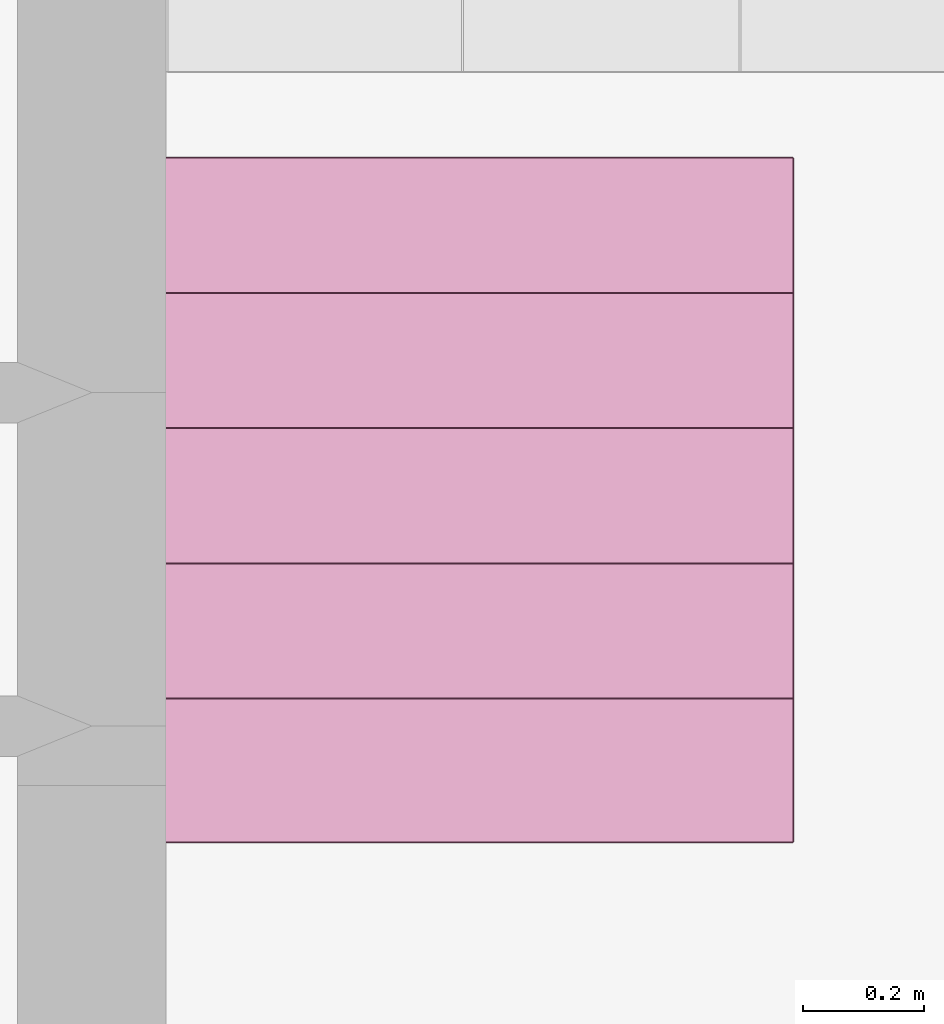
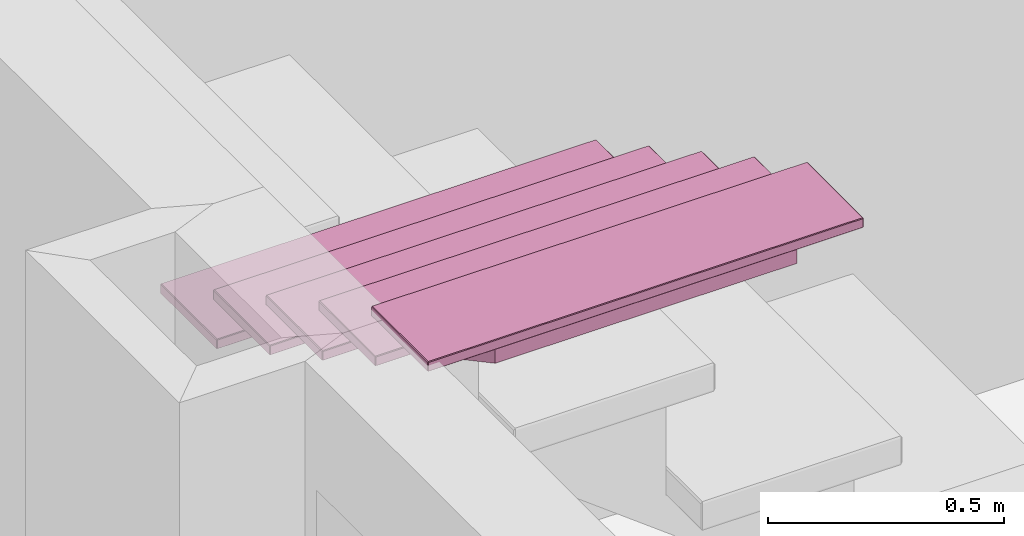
# One storey, part 6 of 8: 1 furniture element.
"""IFC4 building model written with IfcOpenShell, lengths in metres."""

import ifcopenshell
import ifcopenshell.guid

model = None  # the IFC model being written
_history = None  # IfcOwnerHistory: only IFC2X3 demands one
_inside = {}  # id of a spatial element -> (the spatial element, [elements in it])
_under = {}  # id of a project, library or spatial element -> (it, [spatial elements below it])
_declared = {}  # id of a project -> (the project, [libraries it declares])
_typed = {}  # id of a type object -> (the type object, [elements of that type])
_made_of = {}  # id of a material, layer set ... -> (it, [elements and type objects made of it])


def new_model(schema):
    """Start an empty IFC model of exactly this schema.

    Asked for "IFC4X3", IfcOpenShell would pick the latest addendum, in which some entities
    have other attributes; the version numbers below select the first issue.
    IFC2X3 requires an IfcOwnerHistory on every rooted entity: one is made here for all.
    """
    global model, _history
    if schema == "IFC4X3":
        model = ifcopenshell.file(schema_version=(4, 3, 0, 0))
    else:
        model = ifcopenshell.file(schema=schema)
    _inside.clear()
    _under.clear()
    _declared.clear()
    _typed.clear()
    _made_of.clear()
    _history = None
    if model.schema == "IFC2X3":
        org = make("IfcOrganization", Name="unknown")
        user = make(
            "IfcPersonAndOrganization",
            ThePerson=make("IfcPerson", FamilyName="unknown"),
            TheOrganization=org,
        )
        app = make(
            "IfcApplication",
            ApplicationDeveloper=org,
            Version="unknown",
            ApplicationFullName="unknown",
            ApplicationIdentifier="unknown",
        )
        _history = make(
            "IfcOwnerHistory",
            OwningUser=user,
            OwningApplication=app,
            ChangeAction="ADDED",
            CreationDate=0,
        )
    return model


def make(cls, **values):
    """One entity of the class cls with the attributes given. An attribute that is None is left unset."""
    return model.create_entity(
        cls, **{name: value for name, value in values.items() if value is not None}
    )


def rooted(cls, **values):
    """An entity with a GlobalId (a new one), such as an element, a storey or a relation."""
    return make(cls, GlobalId=ifcopenshell.guid.new(), OwnerHistory=_history, **values)


def si_unit(unit_type, name, prefix=None):
    """IfcSIUnit, for example si_unit("LENGTHUNIT", "METRE", prefix="MILLI")."""
    return make("IfcSIUnit", UnitType=unit_type, Prefix=prefix, Name=name)


def assignment(units):
    """IfcUnitAssignment: the units of a project."""
    return None if units is None else make("IfcUnitAssignment", Units=units)


def point(xyz):
    """IfcCartesianPoint."""
    return None if xyz is None else make("IfcCartesianPoint", Coordinates=xyz)


def direction(xyz):
    """IfcDirection."""
    return None if xyz is None else make("IfcDirection", DirectionRatios=xyz)


def frame(location, z_axis=None, x_axis=None):
    """IfcAxis2Placement3D, a coordinate frame: its origin and axes. An axis left out is left unset."""
    return make(
        "IfcAxis2Placement3D",
        Location=point(location),
        Axis=direction(z_axis),
        RefDirection=direction(x_axis),
    )


def origin_with_axes():
    """The frame at (0, 0, 0) with the z axis (0, 0, 1) and the x axis (1, 0, 0) written out."""
    return frame((0.0, 0.0, 0.0), z_axis=(0.0, 0.0, 1.0), x_axis=(1.0, 0.0, 0.0))


def place(relative_to, where):
    """IfcLocalPlacement: puts the frame where relative to a parent placement (None: the world)."""
    return make(
        "IfcLocalPlacement", PlacementRelTo=relative_to, RelativePlacement=where
    )


def context(
    kind, dimensions, precision=None, world=None, true_north=None, identifier=None
):
    """IfcGeometricRepresentationContext, for example the 3D "Model" context."""
    return make(
        "IfcGeometricRepresentationContext",
        ContextIdentifier=identifier,
        ContextType=kind,
        CoordinateSpaceDimension=dimensions,
        Precision=precision,
        WorldCoordinateSystem=world,
        TrueNorth=true_north,
    )


def project(units=None, contexts=None):
    """IfcProject with its units and contexts."""
    return rooted(
        "IfcProject",
        Name="project",
        RepresentationContexts=contexts,
        UnitsInContext=assignment(units),
    )


def spatial(cls, under=None, at=None, **own):
    """A site, building, storey or space (cls), placed at a placement, below another one or the project."""
    s = rooted(cls, ObjectPlacement=at, **own)
    if under is not None:
        _under.setdefault(under.id(), (under, []))[1].append(s)
    return s


def point_list(points):
    """IfcCartesianPointList2D or 3D."""
    cls = (
        "IfcCartesianPointList2D" if len(points[0]) == 2 else "IfcCartesianPointList3D"
    )
    return make(cls, CoordList=points)


def polygons(points, faces, closed=None, point_numbers=None):
    """IfcPolygonalFaceSet: a face is its outer loop, then its inner loops; points numbered from 1."""
    made = []
    for loops in faces:
        if len(loops) == 1:
            made.append(make("IfcIndexedPolygonalFace", CoordIndex=loops[0]))
        else:
            made.append(
                make(
                    "IfcIndexedPolygonalFaceWithVoids",
                    CoordIndex=loops[0],
                    InnerCoordIndices=loops[1:],
                )
            )
    return make(
        "IfcPolygonalFaceSet",
        Coordinates=point_list(points),
        Closed=closed,
        Faces=made,
        PnIndex=point_numbers,
    )


def shape(context_of_items, identifier, shape_type, items):
    """IfcShapeRepresentation: the items that make up one representation, for example the "Body"."""
    return make(
        "IfcShapeRepresentation",
        ContextOfItems=context_of_items,
        RepresentationIdentifier=identifier,
        RepresentationType=shape_type,
        Items=items,
    )


def made_of(thing, what):
    """Note that an element or type object is made of a material, layer set ...; save() writes the relation."""
    if what is not None:
        _made_of.setdefault(what.id(), (what, []))[1].append(thing)
    return thing


def type_object(cls, material=None, **own):
    """A type object (cls), such as IfcWallType, which elements share."""
    return made_of(rooted(cls, **own), material)


def element(
    cls,
    number,
    at=None,
    inside=None,
    cuts=None,
    type_object=None,
    material=None,
    context=None,
    identifier="Body",
    shape_type=None,
    held_by="IfcProductDefinitionShape",
    body=None,
    shapes=None,
    **own,
):
    """One element of the class cls, such as IfcWall. Its Tag is "e" and its number.

    at: its placement. inside: the storey or other place that contains it. cuts: it is an
    opening in that element (IfcRelVoidsElement). A single representation is given by context,
    identifier, shape_type and body (its items); several are given by shapes. held_by: the class
    of the entity that holds the representations. save() writes the other relations.
    """
    e = rooted(cls, Tag="e%d" % number, ObjectPlacement=at, **own)
    if body is not None:
        shapes = [shape(context, identifier, shape_type, body)]
    if shapes is not None:
        e.Representation = make(held_by, Representations=shapes)
    if inside is not None:
        _inside.setdefault(inside.id(), (inside, []))[1].append(e)
    if cuts is not None:
        rooted(
            "IfcRelVoidsElement", RelatingBuildingElement=cuts, RelatedOpeningElement=e
        )
    if type_object is not None:
        _typed.setdefault(type_object.id(), (type_object, []))[1].append(e)
    return made_of(e, material)


def aggregate(whole, parts):
    """IfcRelAggregates: a whole, such as a stair, and the parts it consists of."""
    return rooted("IfcRelAggregates", RelatingObject=whole, RelatedObjects=parts)


def save(model, path):
    """Write the relations noted so far, then the file.

    IfcRelAggregates (storeys below a building ...), IfcRelContainedInSpatialStructure (elements
    in a storey), IfcRelDefinesByType, IfcRelAssociatesMaterial and IfcRelDeclares: one each for
    every whole, place, type object, material and project.
    """
    for whole, parts in _under.values():
        aggregate(whole, parts)
    for where, things in _inside.values():
        rooted(
            "IfcRelContainedInSpatialStructure",
            RelatedElements=things,
            RelatingStructure=where,
        )
    for kind, things in _typed.values():
        rooted("IfcRelDefinesByType", RelatedObjects=things, RelatingType=kind)
    for what, things in _made_of.values():
        rooted("IfcRelAssociatesMaterial", RelatedObjects=things, RelatingMaterial=what)
    for by, libraries in _declared.values():
        rooted("IfcRelDeclares", RelatingContext=by, RelatedDefinitions=libraries)
    model.write(path)


model = new_model("IFC4")

# Units and contexts
model_context = context("Model", 3, precision=1e-05, world=origin_with_axes(), true_north=direction((-0.077, 0.997, 0.0)))
ifc_project = project(units=[si_unit("AREAUNIT", "SQUARE_METRE"), si_unit("LENGTHUNIT", "METRE")], contexts=[model_context])

# Site, building, storey, space
site_placement = place(None, origin_with_axes())
site = spatial("IfcSite", under=ifc_project, at=site_placement, Name="Site", CompositionType="ELEMENT")
building_placement = place(site_placement, origin_with_axes())
building = spatial("IfcBuilding", under=site, at=building_placement, Name="Building", CompositionType="ELEMENT")
storey_placement = place(building_placement, frame((0.0, 0.0, 0.0500000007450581), z_axis=(0.0, 0.0, 1.0), x_axis=(1.0, 0.0, 0.0)))
storey = spatial("IfcBuildingStorey", under=building, at=storey_placement, Name="Story 0", CompositionType="ELEMENT", Elevation=0.0500000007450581)
space_placement = place(storey_placement, frame((1.57275010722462, 0.239487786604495, 0.0), z_axis=(0.0, 0.0, 1.0), x_axis=(1.0, 0.0, 0.0)))
space = spatial("IfcSpace", under=storey, at=space_placement, Name="002", CompositionType="ELEMENT")

# Furniture
furniture_type = type_object("IfcFurnitureType", Name="4b038b04-ed2c-44cd-ad29-fa8fd4b9a46c", AssemblyPlace="NOTDEFINED", PredefinedType="USERDEFINED")
furniture_placement = place(space_placement, frame((0.504883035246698, -0.17973069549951, 2.0833696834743), z_axis=(0.0, 0.0, 1.00000000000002), x_axis=(0.0, 1.0, 0.0)))
element("IfcFurniture", 1, at=furniture_placement, inside=space, type_object=furniture_type, Name="STAIRS", ObjectType="STAIRS", PredefinedType="USERDEFINED", context=model_context, shape_type="Tessellation", body=[
    polygons([(0.5679, 0.5323, -0.1714), (0.5679, -0.5323, -0.1714), (0.5679, 0.5323, -0.1937), (0.5679, -0.5323, -0.1937), (0.5679, 0.5323, -0.1937), (0.5679, -0.5323, -0.1714), (0.5663, -0.5342, -0.1714), (0.3296, -0.5342, -0.1714), (0.5663, -0.5342, -0.1937), (0.3296, -0.5342, -0.1937), (0.5663, -0.5342, -0.1937), (0.3296, -0.5342, -0.1714), (0.328, -0.5323, -0.1714), (0.328, 0.5323, -0.1714), (0.328, -0.5323, -0.1937), (0.328, 0.5323, -0.1937), (0.328, -0.5323, -0.1937), (0.328, 0.5323, -0.1714), (0.3296, 0.5342, -0.1714), (0.5663, 0.5342, -0.1714), (0.3296, 0.5342, -0.1937), (0.5663, 0.5342, -0.1937), (0.3296, 0.5342, -0.1937), (0.5663, 0.5342, -0.1714), (0.5663, -0.5323, -0.1954), (0.3296, -0.5323, -0.1954), (0.5663, 0.5323, -0.1954), (0.3296, 0.5323, -0.1954), (0.5663, 0.5323, -0.1954), (0.3296, -0.5323, -0.1954), (0.5663, -0.5323, -0.1697), (0.5663, 0.5323, -0.1697), (0.3296, -0.5323, -0.1697), (0.3296, 0.5323, -0.1697), (0.3296, -0.5323, -0.1697), (0.5663, 0.5323, -0.1697), (0.5663, 0.5342, -0.1937), (0.5679, 0.5323, -0.1937), (0.5663, 0.5323, -0.1954), (0.5663, -0.5342, -0.1937), (0.5663, -0.5323, -0.1954), (0.5679, -0.5323, -0.1937), (0.328, -0.5323, -0.1937), (0.3296, -0.5323, -0.1954), (0.3296, -0.5342, -0.1937), (0.328, 0.5323, -0.1937), (0.3296, 0.5342, -0.1937), (0.3296, 0.5323, -0.1954), (0.5663, 0.5323, -0.1697), (0.5679, 0.5323, -0.1714), (0.5663, 0.5342, -0.1714), (0.5663, -0.5323, -0.1697), (0.5663, -0.5342, -0.1714), (0.5679, -0.5323, -0.1714), (0.3296, -0.5323, -0.1697), (0.328, -0.5323, -0.1714), (0.3296, -0.5342, -0.1714), (0.3296, 0.5323, -0.1697), (0.3296, 0.5342, -0.1714), (0.328, 0.5323, -0.1714), (0.5663, 0.5323, -0.1954), (0.5679, 0.5323, -0.1937), (0.5663, -0.5323, -0.1954), (0.5679, -0.5323, -0.1937), (0.5663, -0.5323, -0.1954), (0.5679, 0.5323, -0.1937), (0.5663, -0.5342, -0.1937), (0.5679, -0.5323, -0.1937), (0.5663, -0.5342, -0.1714), (0.5679, -0.5323, -0.1714), (0.5663, -0.5342, -0.1714), (0.5679, -0.5323, -0.1937), (0.5663, -0.5323, -0.1697), (0.5679, -0.5323, -0.1714), (0.5663, 0.5323, -0.1697), (0.5679, 0.5323, -0.1714), (0.5663, 0.5323, -0.1697), (0.5679, -0.5323, -0.1714), (0.5663, 0.5342, -0.1714), (0.5679, 0.5323, -0.1714), (0.5663, 0.5342, -0.1937), (0.5679, 0.5323, -0.1937), (0.5663, 0.5342, -0.1937), (0.5679, 0.5323, -0.1714), (0.5663, -0.5323, -0.1954), (0.5663, -0.5342, -0.1937), (0.3296, -0.5323, -0.1954), (0.3296, -0.5342, -0.1937), (0.3296, -0.5323, -0.1954), (0.5663, -0.5342, -0.1937), (0.328, -0.5323, -0.1937), (0.3296, -0.5342, -0.1937), (0.328, -0.5323, -0.1714), (0.3296, -0.5342, -0.1714), (0.328, -0.5323, -0.1714), (0.3296, -0.5342, -0.1937), (0.3296, -0.5323, -0.1697), (0.3296, -0.5342, -0.1714), (0.5663, -0.5323, -0.1697), (0.5663, -0.5342, -0.1714), (0.5663, -0.5323, -0.1697), (0.3296, -0.5342, -0.1714), (0.3296, -0.5323, -0.1954), (0.328, -0.5323, -0.1937), (0.3296, 0.5323, -0.1954), (0.328, 0.5323, -0.1937), (0.3296, 0.5323, -0.1954), (0.328, -0.5323, -0.1937), (0.3296, 0.5342, -0.1937), (0.328, 0.5323, -0.1937), (0.3296, 0.5342, -0.1714), (0.328, 0.5323, -0.1714), (0.3296, 0.5342, -0.1714), (0.328, 0.5323, -0.1937), (0.3296, 0.5323, -0.1697), (0.328, 0.5323, -0.1714), (0.3296, -0.5323, -0.1697), (0.328, -0.5323, -0.1714), (0.3296, -0.5323, -0.1697), (0.328, 0.5323, -0.1714), (0.3296, 0.5323, -0.1954), (0.3296, 0.5342, -0.1937), (0.5663, 0.5323, -0.1954), (0.5663, 0.5342, -0.1937), (0.5663, 0.5323, -0.1954), (0.3296, 0.5342, -0.1937), (0.5663, 0.5323, -0.1697), (0.5663, 0.5342, -0.1714), (0.3296, 0.5323, -0.1697), (0.3296, 0.5342, -0.1714), (0.3296, 0.5323, -0.1697), (0.5663, 0.5342, -0.1714), (0.3433, 0.5323, -0.0509), (0.3433, -0.5323, -0.0509), (0.3433, 0.5323, -0.0732), (0.3433, -0.5323, -0.0732), (0.3433, 0.5323, -0.0732), (0.3433, -0.5323, -0.0509), (0.3417, -0.5342, -0.0509), (0.105, -0.5342, -0.0509), (0.3417, -0.5342, -0.0732), (0.105, -0.5342, -0.0732), (0.3417, -0.5342, -0.0732), (0.105, -0.5342, -0.0509), (0.1034, -0.5323, -0.0509), (0.1034, 0.5323, -0.0509), (0.1034, -0.5323, -0.0732), (0.1034, 0.5323, -0.0732), (0.1034, -0.5323, -0.0732), (0.1034, 0.5323, -0.0509), (0.105, 0.5342, -0.0509), (0.3417, 0.5342, -0.0509), (0.105, 0.5342, -0.0732), (0.3417, 0.5342, -0.0732), (0.105, 0.5342, -0.0732), (0.3417, 0.5342, -0.0509), (0.3417, -0.5323, -0.0749), (0.105, -0.5323, -0.0749), (0.3417, 0.5323, -0.0749), (0.105, 0.5323, -0.0749), (0.3417, 0.5323, -0.0749), (0.105, -0.5323, -0.0749), (0.3417, -0.5323, -0.0491), (0.3417, 0.5323, -0.0491), (0.105, -0.5323, -0.0491), (0.105, 0.5323, -0.0491), (0.105, -0.5323, -0.0491), (0.3417, 0.5323, -0.0491), (0.3417, 0.5342, -0.0732), (0.3433, 0.5323, -0.0732), (0.3417, 0.5323, -0.0749), (0.3417, -0.5342, -0.0732), (0.3417, -0.5323, -0.0749), (0.3433, -0.5323, -0.0732), (0.1034, -0.5323, -0.0732), (0.105, -0.5323, -0.0749), (0.105, -0.5342, -0.0732), (0.1034, 0.5323, -0.0732), (0.105, 0.5342, -0.0732), (0.105, 0.5323, -0.0749), (0.3417, 0.5323, -0.0491), (0.3433, 0.5323, -0.0509), (0.3417, 0.5342, -0.0509), (0.3417, -0.5323, -0.0491), (0.3417, -0.5342, -0.0509), (0.3433, -0.5323, -0.0509), (0.105, -0.5323, -0.0491), (0.1034, -0.5323, -0.0509), (0.105, -0.5342, -0.0509), (0.105, 0.5323, -0.0491), (0.105, 0.5342, -0.0509), (0.1034, 0.5323, -0.0509), (0.3417, 0.5323, -0.0749), (0.3433, 0.5323, -0.0732), (0.3417, -0.5323, -0.0749), (0.3433, -0.5323, -0.0732), (0.3417, -0.5323, -0.0749), (0.3433, 0.5323, -0.0732), (0.3417, -0.5342, -0.0732), (0.3433, -0.5323, -0.0732), (0.3417, -0.5342, -0.0509), (0.3433, -0.5323, -0.0509), (0.3417, -0.5342, -0.0509), (0.3433, -0.5323, -0.0732), (0.3417, -0.5323, -0.0491), (0.3433, -0.5323, -0.0509), (0.3417, 0.5323, -0.0491), (0.3433, 0.5323, -0.0509), (0.3417, 0.5323, -0.0491), (0.3433, -0.5323, -0.0509), (0.3417, 0.5342, -0.0509), (0.3433, 0.5323, -0.0509), (0.3417, 0.5342, -0.0732), (0.3433, 0.5323, -0.0732), (0.3417, 0.5342, -0.0732), (0.3433, 0.5323, -0.0509), (0.3417, -0.5323, -0.0749), (0.3417, -0.5342, -0.0732), (0.105, -0.5323, -0.0749), (0.105, -0.5342, -0.0732), (0.105, -0.5323, -0.0749), (0.3417, -0.5342, -0.0732), (0.1034, -0.5323, -0.0732), (0.105, -0.5342, -0.0732), (0.1034, -0.5323, -0.0509), (0.105, -0.5342, -0.0509), (0.1034, -0.5323, -0.0509), (0.105, -0.5342, -0.0732), (0.105, -0.5323, -0.0491), (0.105, -0.5342, -0.0509), (0.3417, -0.5323, -0.0491), (0.3417, -0.5342, -0.0509), (0.3417, -0.5323, -0.0491), (0.105, -0.5342, -0.0509), (0.105, -0.5323, -0.0749), (0.1034, -0.5323, -0.0732), (0.105, 0.5323, -0.0749), (0.1034, 0.5323, -0.0732), (0.105, 0.5323, -0.0749), (0.1034, -0.5323, -0.0732), (0.105, 0.5342, -0.0732), (0.1034, 0.5323, -0.0732), (0.105, 0.5342, -0.0509), (0.1034, 0.5323, -0.0509), (0.105, 0.5342, -0.0509), (0.1034, 0.5323, -0.0732), (0.105, 0.5323, -0.0491), (0.1034, 0.5323, -0.0509), (0.105, -0.5323, -0.0491), (0.1034, -0.5323, -0.0509), (0.105, -0.5323, -0.0491), (0.1034, 0.5323, -0.0509), (0.105, 0.5323, -0.0749), (0.105, 0.5342, -0.0732), (0.3417, 0.5323, -0.0749), (0.3417, 0.5342, -0.0732), (0.3417, 0.5323, -0.0749), (0.105, 0.5342, -0.0732), (0.3417, 0.5323, -0.0491), (0.3417, 0.5342, -0.0509), (0.105, 0.5323, -0.0491), (0.105, 0.5342, -0.0509), (0.105, 0.5323, -0.0491), (0.3417, 0.5342, -0.0509), (0.1199, 0.5323, 0.0705), (0.1199, -0.5323, 0.0705), (0.1199, 0.5323, 0.0482), (0.1199, -0.5323, 0.0482), (0.1199, 0.5323, 0.0482), (0.1199, -0.5323, 0.0705), (0.1183, -0.5342, 0.0705), (-0.1184, -0.5342, 0.0705), (0.1183, -0.5342, 0.0482), (-0.1184, -0.5342, 0.0482), (0.1183, -0.5342, 0.0482), (-0.1184, -0.5342, 0.0705), (-0.12, -0.5323, 0.0705), (-0.12, 0.5323, 0.0705), (-0.12, -0.5323, 0.0482), (-0.12, 0.5323, 0.0482), (-0.12, -0.5323, 0.0482), (-0.12, 0.5323, 0.0705), (-0.1184, 0.5342, 0.0705), (0.1183, 0.5342, 0.0705), (-0.1184, 0.5342, 0.0482), (0.1183, 0.5342, 0.0482), (-0.1184, 0.5342, 0.0482), (0.1183, 0.5342, 0.0705), (0.1183, -0.5323, 0.0464), (-0.1184, -0.5323, 0.0464), (0.1183, 0.5323, 0.0464), (-0.1184, 0.5323, 0.0464), (0.1183, 0.5323, 0.0464), (-0.1184, -0.5323, 0.0464), (0.1183, -0.5323, 0.0722), (0.1183, 0.5323, 0.0722), (-0.1184, -0.5323, 0.0722), (-0.1184, 0.5323, 0.0722), (-0.1184, -0.5323, 0.0722), (0.1183, 0.5323, 0.0722), (0.1183, 0.5342, 0.0482), (0.1199, 0.5323, 0.0482), (0.1183, 0.5323, 0.0464), (0.1183, -0.5342, 0.0482), (0.1183, -0.5323, 0.0464), (0.1199, -0.5323, 0.0482), (-0.12, -0.5323, 0.0482), (-0.1184, -0.5323, 0.0464), (-0.1184, -0.5342, 0.0482), (-0.12, 0.5323, 0.0482), (-0.1184, 0.5342, 0.0482), (-0.1184, 0.5323, 0.0464), (0.1183, 0.5323, 0.0722), (0.1199, 0.5323, 0.0705), (0.1183, 0.5342, 0.0705), (0.1183, -0.5323, 0.0722), (0.1183, -0.5342, 0.0705), (0.1199, -0.5323, 0.0705), (-0.1184, -0.5323, 0.0722), (-0.12, -0.5323, 0.0705), (-0.1184, -0.5342, 0.0705), (-0.1184, 0.5323, 0.0722), (-0.1184, 0.5342, 0.0705), (-0.12, 0.5323, 0.0705), (0.1183, 0.5323, 0.0464), (0.1199, 0.5323, 0.0482), (0.1183, -0.5323, 0.0464), (0.1199, -0.5323, 0.0482), (0.1183, -0.5323, 0.0464), (0.1199, 0.5323, 0.0482), (0.1183, -0.5342, 0.0482), (0.1199, -0.5323, 0.0482), (0.1183, -0.5342, 0.0705), (0.1199, -0.5323, 0.0705), (0.1183, -0.5342, 0.0705), (0.1199, -0.5323, 0.0482), (0.1183, -0.5323, 0.0722), (0.1199, -0.5323, 0.0705), (0.1183, 0.5323, 0.0722), (0.1199, 0.5323, 0.0705), (0.1183, 0.5323, 0.0722), (0.1199, -0.5323, 0.0705), (0.1183, 0.5342, 0.0705), (0.1199, 0.5323, 0.0705), (0.1183, 0.5342, 0.0482), (0.1199, 0.5323, 0.0482), (0.1183, 0.5342, 0.0482), (0.1199, 0.5323, 0.0705), (0.1183, -0.5323, 0.0464), (0.1183, -0.5342, 0.0482), (-0.1184, -0.5323, 0.0464), (-0.1184, -0.5342, 0.0482), (-0.1184, -0.5323, 0.0464), (0.1183, -0.5342, 0.0482), (-0.12, -0.5323, 0.0482), (-0.1184, -0.5342, 0.0482), (-0.12, -0.5323, 0.0705), (-0.1184, -0.5342, 0.0705), (-0.12, -0.5323, 0.0705), (-0.1184, -0.5342, 0.0482), (-0.1184, -0.5323, 0.0722), (-0.1184, -0.5342, 0.0705), (0.1183, -0.5323, 0.0722), (0.1183, -0.5342, 0.0705), (0.1183, -0.5323, 0.0722), (-0.1184, -0.5342, 0.0705), (-0.1184, -0.5323, 0.0464), (-0.12, -0.5323, 0.0482), (-0.1184, 0.5323, 0.0464), (-0.12, 0.5323, 0.0482), (-0.1184, 0.5323, 0.0464), (-0.12, -0.5323, 0.0482), (-0.1184, 0.5342, 0.0482), (-0.12, 0.5323, 0.0482), (-0.1184, 0.5342, 0.0705), (-0.12, 0.5323, 0.0705), (-0.1184, 0.5342, 0.0705), (-0.12, 0.5323, 0.0482), (-0.1184, 0.5323, 0.0722), (-0.12, 0.5323, 0.0705), (-0.1184, -0.5323, 0.0722), (-0.12, -0.5323, 0.0705), (-0.1184, -0.5323, 0.0722), (-0.12, 0.5323, 0.0705), (-0.1184, 0.5323, 0.0464), (-0.1184, 0.5342, 0.0482), (0.1183, 0.5323, 0.0464), (0.1183, 0.5342, 0.0482), (0.1183, 0.5323, 0.0464), (-0.1184, 0.5342, 0.0482), (0.1183, 0.5323, 0.0722), (0.1183, 0.5342, 0.0705), (-0.1184, 0.5323, 0.0722), (-0.1184, 0.5342, 0.0705), (-0.1184, 0.5323, 0.0722), (0.1183, 0.5342, 0.0705), (-0.1044, 0.5323, 0.1922), (-0.1044, -0.5323, 0.1922), (-0.1044, 0.5323, 0.1699), (-0.1044, -0.5323, 0.1699), (-0.1044, 0.5323, 0.1699), (-0.1044, -0.5323, 0.1922), (-0.106, -0.5342, 0.1922), (-0.3428, -0.5342, 0.1922), (-0.106, -0.5342, 0.1699), (-0.3428, -0.5342, 0.1699), (-0.106, -0.5342, 0.1699), (-0.3428, -0.5342, 0.1922), (-0.3444, -0.5323, 0.1922), (-0.3444, 0.5323, 0.1922), (-0.3444, -0.5323, 0.1699), (-0.3444, 0.5323, 0.1699), (-0.3444, -0.5323, 0.1699), (-0.3444, 0.5323, 0.1922), (-0.3428, 0.5342, 0.1922), (-0.106, 0.5342, 0.1922), (-0.3428, 0.5342, 0.1699), (-0.106, 0.5342, 0.1699), (-0.3428, 0.5342, 0.1699), (-0.106, 0.5342, 0.1922), (-0.106, -0.5323, 0.1682), (-0.3428, -0.5323, 0.1682), (-0.106, 0.5323, 0.1682), (-0.3428, 0.5323, 0.1682), (-0.106, 0.5323, 0.1682), (-0.3428, -0.5323, 0.1682), (-0.106, -0.5323, 0.1939), (-0.106, 0.5323, 0.1939), (-0.3428, -0.5323, 0.1939), (-0.3428, 0.5323, 0.1939), (-0.3428, -0.5323, 0.1939), (-0.106, 0.5323, 0.1939), (-0.106, 0.5342, 0.1699), (-0.1044, 0.5323, 0.1699), (-0.106, 0.5323, 0.1682), (-0.106, -0.5342, 0.1699), (-0.106, -0.5323, 0.1682), (-0.1044, -0.5323, 0.1699), (-0.3444, -0.5323, 0.1699), (-0.3428, -0.5323, 0.1682), (-0.3428, -0.5342, 0.1699), (-0.3444, 0.5323, 0.1699), (-0.3428, 0.5342, 0.1699), (-0.3428, 0.5323, 0.1682), (-0.106, 0.5323, 0.1939), (-0.1044, 0.5323, 0.1922), (-0.106, 0.5342, 0.1922), (-0.106, -0.5323, 0.1939), (-0.106, -0.5342, 0.1922), (-0.1044, -0.5323, 0.1922), (-0.3428, -0.5323, 0.1939), (-0.3444, -0.5323, 0.1922), (-0.3428, -0.5342, 0.1922), (-0.3428, 0.5323, 0.1939), (-0.3428, 0.5342, 0.1922), (-0.3444, 0.5323, 0.1922), (-0.106, 0.5323, 0.1682), (-0.1044, 0.5323, 0.1699), (-0.106, -0.5323, 0.1682), (-0.1044, -0.5323, 0.1699), (-0.106, -0.5323, 0.1682), (-0.1044, 0.5323, 0.1699), (-0.106, -0.5342, 0.1699), (-0.1044, -0.5323, 0.1699), (-0.106, -0.5342, 0.1922), (-0.1044, -0.5323, 0.1922), (-0.106, -0.5342, 0.1922), (-0.1044, -0.5323, 0.1699), (-0.106, -0.5323, 0.1939), (-0.1044, -0.5323, 0.1922), (-0.106, 0.5323, 0.1939), (-0.1044, 0.5323, 0.1922), (-0.106, 0.5323, 0.1939), (-0.1044, -0.5323, 0.1922), (-0.106, 0.5342, 0.1922), (-0.1044, 0.5323, 0.1922), (-0.106, 0.5342, 0.1699), (-0.1044, 0.5323, 0.1699), (-0.106, 0.5342, 0.1699), (-0.1044, 0.5323, 0.1922), (-0.106, -0.5323, 0.1682), (-0.106, -0.5342, 0.1699), (-0.3428, -0.5323, 0.1682), (-0.3428, -0.5342, 0.1699), (-0.3428, -0.5323, 0.1682), (-0.106, -0.5342, 0.1699), (-0.3444, -0.5323, 0.1699), (-0.3428, -0.5342, 0.1699), (-0.3444, -0.5323, 0.1922), (-0.3428, -0.5342, 0.1922), (-0.3444, -0.5323, 0.1922), (-0.3428, -0.5342, 0.1699), (-0.3428, -0.5323, 0.1939), (-0.3428, -0.5342, 0.1922), (-0.106, -0.5323, 0.1939), (-0.106, -0.5342, 0.1922), (-0.106, -0.5323, 0.1939), (-0.3428, -0.5342, 0.1922), (-0.3428, -0.5323, 0.1682), (-0.3444, -0.5323, 0.1699), (-0.3428, 0.5323, 0.1682), (-0.3444, 0.5323, 0.1699), (-0.3428, 0.5323, 0.1682), (-0.3444, -0.5323, 0.1699), (-0.3428, 0.5342, 0.1699), (-0.3444, 0.5323, 0.1699), (-0.3428, 0.5342, 0.1922), (-0.3444, 0.5323, 0.1922), (-0.3428, 0.5342, 0.1922), (-0.3444, 0.5323, 0.1699), (-0.3428, 0.5323, 0.1939), (-0.3444, 0.5323, 0.1922), (-0.3428, -0.5323, 0.1939), (-0.3444, -0.5323, 0.1922), (-0.3428, -0.5323, 0.1939), (-0.3444, 0.5323, 0.1922), (-0.3428, 0.5323, 0.1682), (-0.3428, 0.5342, 0.1699), (-0.106, 0.5323, 0.1682), (-0.106, 0.5342, 0.1699), (-0.106, 0.5323, 0.1682), (-0.3428, 0.5342, 0.1699), (-0.106, 0.5323, 0.1939), (-0.106, 0.5342, 0.1922), (-0.3428, 0.5323, 0.1939), (-0.3428, 0.5342, 0.1922), (-0.3428, 0.5323, 0.1939), (-0.106, 0.5342, 0.1922), (-0.328, 0.5323, 0.3136), (-0.328, -0.5323, 0.3136), (-0.328, 0.5323, 0.2912), (-0.328, -0.5323, 0.2912), (-0.328, 0.5323, 0.2912), (-0.328, -0.5323, 0.3136), (-0.3296, -0.5342, 0.3136), (-0.5663, -0.5342, 0.3136), (-0.3296, -0.5342, 0.2912), (-0.5663, -0.5342, 0.2912), (-0.3296, -0.5342, 0.2912), (-0.5663, -0.5342, 0.3136), (-0.5679, -0.5323, 0.3136), (-0.5679, 0.5323, 0.3136), (-0.5679, -0.5323, 0.2912), (-0.5679, 0.5323, 0.2912), (-0.5679, -0.5323, 0.2912), (-0.5679, 0.5323, 0.3136), (-0.5663, 0.5342, 0.3136), (-0.3296, 0.5342, 0.3136), (-0.5663, 0.5342, 0.2912), (-0.3296, 0.5342, 0.2912), (-0.5663, 0.5342, 0.2912), (-0.3296, 0.5342, 0.3136), (-0.3296, -0.5323, 0.2895), (-0.5663, -0.5323, 0.2895), (-0.3296, 0.5323, 0.2895), (-0.5663, 0.5323, 0.2895), (-0.3296, 0.5323, 0.2895), (-0.5663, -0.5323, 0.2895), (-0.3296, -0.5323, 0.3153), (-0.3296, 0.5323, 0.3153), (-0.5663, -0.5323, 0.3153), (-0.5663, 0.5323, 0.3153), (-0.5663, -0.5323, 0.3153), (-0.3296, 0.5323, 0.3153), (-0.3296, 0.5342, 0.2912), (-0.328, 0.5323, 0.2912), (-0.3296, 0.5323, 0.2895), (-0.3296, -0.5342, 0.2912), (-0.3296, -0.5323, 0.2895), (-0.328, -0.5323, 0.2912), (-0.5679, -0.5323, 0.2912), (-0.5663, -0.5323, 0.2895), (-0.5663, -0.5342, 0.2912), (-0.5679, 0.5323, 0.2912), (-0.5663, 0.5342, 0.2912), (-0.5663, 0.5323, 0.2895), (-0.3296, 0.5323, 0.3153), (-0.328, 0.5323, 0.3136), (-0.3296, 0.5342, 0.3136), (-0.3296, -0.5323, 0.3153), (-0.3296, -0.5342, 0.3136), (-0.328, -0.5323, 0.3136), (-0.5663, -0.5323, 0.3153), (-0.5679, -0.5323, 0.3136), (-0.5663, -0.5342, 0.3136), (-0.5663, 0.5323, 0.3153), (-0.5663, 0.5342, 0.3136), (-0.5679, 0.5323, 0.3136), (-0.3296, 0.5323, 0.2895), (-0.328, 0.5323, 0.2912), (-0.3296, -0.5323, 0.2895), (-0.328, -0.5323, 0.2912), (-0.3296, -0.5323, 0.2895), (-0.328, 0.5323, 0.2912), (-0.3296, -0.5342, 0.2912), (-0.328, -0.5323, 0.2912), (-0.3296, -0.5342, 0.3136), (-0.328, -0.5323, 0.3136), (-0.3296, -0.5342, 0.3136), (-0.328, -0.5323, 0.2912), (-0.3296, -0.5323, 0.3153), (-0.328, -0.5323, 0.3136), (-0.3296, 0.5323, 0.3153), (-0.328, 0.5323, 0.3136), (-0.3296, 0.5323, 0.3153), (-0.328, -0.5323, 0.3136), (-0.3296, 0.5342, 0.3136), (-0.328, 0.5323, 0.3136), (-0.3296, 0.5342, 0.2912), (-0.328, 0.5323, 0.2912), (-0.3296, 0.5342, 0.2912), (-0.328, 0.5323, 0.3136), (-0.3296, -0.5323, 0.2895), (-0.3296, -0.5342, 0.2912), (-0.5663, -0.5323, 0.2895), (-0.5663, -0.5342, 0.2912), (-0.5663, -0.5323, 0.2895), (-0.3296, -0.5342, 0.2912), (-0.5679, -0.5323, 0.2912), (-0.5663, -0.5342, 0.2912), (-0.5679, -0.5323, 0.3136), (-0.5663, -0.5342, 0.3136), (-0.5679, -0.5323, 0.3136), (-0.5663, -0.5342, 0.2912), (-0.5663, -0.5323, 0.3153), (-0.5663, -0.5342, 0.3136), (-0.3296, -0.5323, 0.3153), (-0.3296, -0.5342, 0.3136), (-0.3296, -0.5323, 0.3153), (-0.5663, -0.5342, 0.3136), (-0.5663, -0.5323, 0.2895), (-0.5679, -0.5323, 0.2912), (-0.5663, 0.5323, 0.2895), (-0.5679, 0.5323, 0.2912), (-0.5663, 0.5323, 0.2895), (-0.5679, -0.5323, 0.2912), (-0.5663, 0.5342, 0.2912), (-0.5679, 0.5323, 0.2912), (-0.5663, 0.5342, 0.3136), (-0.5679, 0.5323, 0.3136), (-0.5663, 0.5342, 0.3136), (-0.5679, 0.5323, 0.2912), (-0.5663, 0.5323, 0.3153), (-0.5679, 0.5323, 0.3136), (-0.5663, -0.5323, 0.3153), (-0.5679, -0.5323, 0.3136), (-0.5663, -0.5323, 0.3153), (-0.5679, 0.5323, 0.3136), (-0.5663, 0.5323, 0.2895), (-0.5663, 0.5342, 0.2912), (-0.3296, 0.5323, 0.2895), (-0.3296, 0.5342, 0.2912), (-0.3296, 0.5323, 0.2895), (-0.5663, 0.5342, 0.2912), (-0.3296, 0.5323, 0.3153), (-0.3296, 0.5342, 0.3136), (-0.5663, 0.5323, 0.3153), (-0.5663, 0.5342, 0.3136), (-0.5663, 0.5323, 0.3153), (-0.3296, 0.5342, 0.3136), (0.5513, 0.3185, -0.1953), (0.5513, 0.3185, -0.3153), (0.5513, 0.3647, -0.1953), (0.5513, 0.3647, -0.3153), (0.5513, 0.3647, -0.1953), (0.5513, 0.3185, -0.3153), (0.3274, 0.3185, -0.1953), (0.5513, 0.3185, -0.1953), (0.3274, 0.3647, -0.1953), (0.5513, 0.3647, -0.1953), (0.3274, 0.3647, -0.1953), (0.5513, 0.3185, -0.1953), (0.3274, 0.3185, -0.0743), (0.3274, 0.3185, -0.1953), (0.3274, 0.3647, -0.0743), (0.3274, 0.3647, -0.1953), (0.3274, 0.3647, -0.0743), (0.3274, 0.3185, -0.1953), (0.1035, 0.3185, -0.0743), (0.3274, 0.3185, -0.0743), (0.1035, 0.3647, -0.0743), (0.3274, 0.3647, -0.0743), (0.1035, 0.3647, -0.0743), (0.3274, 0.3185, -0.0743), (0.1035, 0.3185, 0.0468), (0.1035, 0.3185, -0.0743), (0.1035, 0.3647, 0.0468), (0.1035, 0.3647, -0.0743), (0.1035, 0.3647, 0.0468), (0.1035, 0.3185, -0.0743), (-0.1205, 0.3185, 0.0468), (0.1035, 0.3185, 0.0468), (-0.1205, 0.3647, 0.0468), (0.1035, 0.3647, 0.0468), (-0.1205, 0.3647, 0.0468), (0.1035, 0.3185, 0.0468), (-0.1205, 0.3185, 0.1678), (-0.1205, 0.3185, 0.0468), (-0.1205, 0.3647, 0.1678), (-0.1205, 0.3647, 0.0468), (-0.1205, 0.3647, 0.1678), (-0.1205, 0.3185, 0.0468), (-0.3444, 0.3185, 0.1678), (-0.1205, 0.3185, 0.1678), (-0.3444, 0.3647, 0.1678), (-0.1205, 0.3647, 0.1678), (-0.3444, 0.3647, 0.1678), (-0.1205, 0.3185, 0.1678), (-0.3444, 0.3185, 0.2888), (-0.3444, 0.3185, 0.1678), (-0.3444, 0.3647, 0.2888), (-0.3444, 0.3647, 0.1678), (-0.3444, 0.3647, 0.2888), (-0.3444, 0.3185, 0.1678), (-0.5603, 0.3185, 0.2888), (-0.3444, 0.3185, 0.2888), (-0.5603, 0.3647, 0.2888), (-0.3444, 0.3647, 0.2888), (-0.5603, 0.3647, 0.2888), (-0.3444, 0.3185, 0.2888), (0.5513, -0.3749, -0.1953), (0.5513, -0.3749, -0.3153), (0.5513, -0.3287, -0.1953), (0.5513, -0.3287, -0.3153), (0.5513, -0.3287, -0.1953), (0.5513, -0.3749, -0.3153), (0.3274, -0.3749, -0.1953), (0.5513, -0.3749, -0.1953), (0.3274, -0.3287, -0.1953), (0.5513, -0.3287, -0.1953), (0.3274, -0.3287, -0.1953), (0.5513, -0.3749, -0.1953), (0.3274, -0.3749, -0.0743), (0.3274, -0.3749, -0.1953), (0.3274, -0.3287, -0.0743), (0.3274, -0.3287, -0.1953), (0.3274, -0.3287, -0.0743), (0.3274, -0.3749, -0.1953), (0.1035, -0.3749, -0.0743), (0.3274, -0.3749, -0.0743), (0.1035, -0.3287, -0.0743), (0.3274, -0.3287, -0.0743), (0.1035, -0.3287, -0.0743), (0.3274, -0.3749, -0.0743), (0.1035, -0.3749, 0.0468), (0.1035, -0.3749, -0.0743), (0.1035, -0.3287, 0.0468), (0.1035, -0.3287, -0.0743), (0.1035, -0.3287, 0.0468), (0.1035, -0.3749, -0.0743), (-0.1205, -0.3749, 0.0468), (0.1035, -0.3749, 0.0468), (-0.1205, -0.3287, 0.0468), (0.1035, -0.3287, 0.0468), (-0.1205, -0.3287, 0.0468), (0.1035, -0.3749, 0.0468), (-0.1205, -0.3749, 0.1678), (-0.1205, -0.3749, 0.0468), (-0.1205, -0.3287, 0.1678), (-0.1205, -0.3287, 0.0468), (-0.1205, -0.3287, 0.1678), (-0.1205, -0.3749, 0.0468), (-0.3444, -0.3749, 0.1678), (-0.1205, -0.3749, 0.1678), (-0.3444, -0.3287, 0.1678), (-0.1205, -0.3287, 0.1678), (-0.3444, -0.3287, 0.1678), (-0.1205, -0.3749, 0.1678), (-0.3444, -0.3749, 0.2888), (-0.3444, -0.3749, 0.1678), (-0.3444, -0.3287, 0.2888), (-0.3444, -0.3287, 0.1678), (-0.3444, -0.3287, 0.2888), (-0.3444, -0.3749, 0.1678), (-0.5603, -0.3749, 0.2888), (-0.3444, -0.3749, 0.2888), (-0.5603, -0.3287, 0.2888), (-0.3444, -0.3287, 0.2888), (-0.5603, -0.3287, 0.2888), (-0.3444, -0.3749, 0.2888), (0.4911, 0.3647, -0.3153), (0.4911, 0.3185, -0.3153), (-0.5603, 0.3647, 0.2483), (-0.5603, 0.3185, 0.2483), (-0.5603, 0.3647, 0.2483), (0.4911, 0.3185, -0.3153), (0.4911, -0.3287, -0.3153), (0.4911, -0.3749, -0.3153), (-0.5603, -0.3287, 0.2483), (-0.5603, -0.3749, 0.2483), (-0.5603, -0.3287, 0.2483), (0.4911, -0.3749, -0.3153), (0.4911, 0.3647, -0.3153), (0.5513, 0.3647, -0.3153), (0.4911, 0.3185, -0.3153), (0.5513, 0.3185, -0.3153), (0.4911, 0.3185, -0.3153), (0.5513, 0.3647, -0.3153), (-0.5603, 0.3647, 0.2483), (-0.5603, 0.3185, 0.2483), (-0.5603, 0.3647, 0.2888), (-0.5603, 0.3185, 0.2888), (-0.5603, 0.3647, 0.2888), (-0.5603, 0.3185, 0.2483), (0.4911, -0.3749, -0.3153), (0.4911, -0.3287, -0.3153), (0.5513, -0.3749, -0.3153), (0.5513, -0.3287, -0.3153), (0.5513, -0.3749, -0.3153), (0.4911, -0.3287, -0.3153), (-0.5603, -0.3287, 0.2483), (-0.5603, -0.3749, 0.2483), (-0.5603, -0.3287, 0.2888), (-0.5603, -0.3749, 0.2888), (-0.5603, -0.3287, 0.2888), (-0.5603, -0.3749, 0.2483), (-0.3444, 0.3185, 0.2888), (-0.5603, 0.3185, 0.2888), (-0.3444, -0.3287, 0.2888), (-0.5603, -0.3287, 0.2888), (-0.3444, -0.3287, 0.2888), (-0.5603, 0.3185, 0.2888), (-0.3444, 0.3185, 0.1678), (-0.3444, 0.3185, 0.2888), (-0.3444, -0.3287, 0.1678), (-0.3444, -0.3287, 0.2888), (-0.3444, -0.3287, 0.1678), (-0.3444, 0.3185, 0.2888), (-0.1205, 0.3185, 0.1678), (-0.3444, 0.3185, 0.1678), (-0.1205, -0.3287, 0.1678), (-0.3444, -0.3287, 0.1678), (-0.1205, -0.3287, 0.1678), (-0.3444, 0.3185, 0.1678), (-0.1205, 0.3185, 0.0468), (-0.1205, 0.3185, 0.1678), (-0.1205, -0.3287, 0.0468), (-0.1205, -0.3287, 0.1678), (-0.1205, -0.3287, 0.0468), (-0.1205, 0.3185, 0.1678), (0.1035, 0.3185, 0.0468), (-0.1205, 0.3185, 0.0468), (0.1035, -0.3287, 0.0468), (-0.1205, -0.3287, 0.0468), (0.1035, -0.3287, 0.0468), (-0.1205, 0.3185, 0.0468), (0.1035, 0.3185, -0.0743), (0.1035, 0.3185, 0.0468), (0.1035, -0.3287, -0.0743), (0.1035, -0.3287, 0.0468), (0.1035, -0.3287, -0.0743), (0.1035, 0.3185, 0.0468), (0.3274, 0.3185, -0.0743), (0.1035, 0.3185, -0.0743), (0.3274, -0.3287, -0.0743), (0.1035, -0.3287, -0.0743), (0.3274, -0.3287, -0.0743), (0.1035, 0.3185, -0.0743), (0.3274, 0.3185, -0.1953), (0.3274, 0.3185, -0.0743), (0.3274, -0.3287, -0.1953), (0.3274, -0.3287, -0.0743), (0.3274, -0.3287, -0.1953), (0.3274, 0.3185, -0.0743), (0.5513, 0.3185, -0.1953), (0.3274, 0.3185, -0.1953), (0.5513, -0.3287, -0.1953), (0.3274, -0.3287, -0.1953), (0.5513, -0.3287, -0.1953), (0.3274, 0.3185, -0.1953), (0.5513, 0.3185, -0.3153), (0.5513, 0.3185, -0.1953), (0.5513, -0.3287, -0.3153), (0.5513, -0.3287, -0.1953), (0.5513, -0.3287, -0.3153), (0.5513, 0.3185, -0.1953), (0.4911, -0.3287, -0.3153), (0.4911, 0.3185, -0.3153), (0.5513, -0.3287, -0.3153), (0.5513, 0.3185, -0.3153), (0.5513, -0.3287, -0.3153), (0.4911, 0.3185, -0.3153), (-0.5603, 0.3185, 0.2483), (0.4911, 0.3185, -0.3153), (-0.5603, -0.3287, 0.2483), (0.4911, -0.3287, -0.3153), (-0.5603, -0.3287, 0.2483), (0.4911, 0.3185, -0.3153), (-0.5603, -0.3749, 0.2888), (-0.5603, -0.3749, 0.2483), (-0.3444, -0.3749, 0.2888), (-0.3444, -0.3749, 0.2888), (-0.5603, -0.3749, 0.2483), (-0.3444, -0.3749, 0.1678), (-0.1205, -0.3749, 0.1678), (-0.3444, -0.3749, 0.1678), (-0.1205, -0.3749, 0.0468), (-0.3444, -0.3749, 0.1678), (-0.5603, -0.3749, 0.2483), (-0.1205, -0.3749, 0.0468), (0.1035, -0.3749, 0.0468), (-0.1205, -0.3749, 0.0468), (0.1035, -0.3749, -0.0743), (0.3274, -0.3749, -0.0743), (0.1035, -0.3749, -0.0743), (0.3274, -0.3749, -0.1953), (0.1035, -0.3749, -0.0743), (-0.1205, -0.3749, 0.0468), (0.3274, -0.3749, -0.1953), (-0.1205, -0.3749, 0.0468), (-0.5603, -0.3749, 0.2483), (0.3274, -0.3749, -0.1953), (0.5513, -0.3749, -0.1953), (0.3274, -0.3749, -0.1953), (0.5513, -0.3749, -0.3153), (0.3274, -0.3749, -0.1953), (-0.5603, -0.3749, 0.2483), (0.5513, -0.3749, -0.3153), (0.5513, -0.3749, -0.3153), (-0.5603, -0.3749, 0.2483), (0.4911, -0.3749, -0.3153), (0.5513, 0.3647, -0.3153), (0.4911, 0.3647, -0.3153), (0.5513, 0.3647, -0.1953), (0.5513, 0.3647, -0.1953), (0.4911, 0.3647, -0.3153), (0.3274, 0.3647, -0.1953), (0.3274, 0.3647, -0.0743), (0.3274, 0.3647, -0.1953), (0.1035, 0.3647, -0.0743), (0.3274, 0.3647, -0.1953), (0.4911, 0.3647, -0.3153), (0.1035, 0.3647, -0.0743), (0.1035, 0.3647, 0.0468), (0.1035, 0.3647, -0.0743), (-0.1205, 0.3647, 0.0468), (0.1035, 0.3647, -0.0743), (0.4911, 0.3647, -0.3153), (-0.1205, 0.3647, 0.0468), (-0.1205, 0.3647, 0.1678), (-0.1205, 0.3647, 0.0468), (-0.3444, 0.3647, 0.1678), (-0.1205, 0.3647, 0.0468), (0.4911, 0.3647, -0.3153), (-0.3444, 0.3647, 0.1678), (-0.3444, 0.3647, 0.2888), (-0.3444, 0.3647, 0.1678), (-0.5603, 0.3647, 0.2888), (-0.3444, 0.3647, 0.1678), (0.4911, 0.3647, -0.3153), (-0.5603, 0.3647, 0.2888), (-0.5603, 0.3647, 0.2888), (0.4911, 0.3647, -0.3153), (-0.5603, 0.3647, 0.2483), (-0.5603, -0.3287, 0.2888), (-0.5603, 0.3185, 0.2888), (-0.5603, -0.3287, 0.2483), (-0.5603, 0.3185, 0.2483), (-0.5603, -0.3287, 0.2483), (-0.5603, 0.3185, 0.2888)], [[[1, 2, 3]], [[4, 5, 6]], [[7, 8, 9]], [[10, 11, 12]], [[13, 14, 15]], [[16, 17, 18]], [[19, 20, 21]], [[22, 23, 24]], [[25, 26, 27]], [[28, 29, 30]], [[31, 32, 33]], [[34, 35, 36]], [[37, 38, 39]], [[40, 41, 42]], [[43, 44, 45]], [[46, 47, 48]], [[49, 50, 51]], [[52, 53, 54]], [[55, 56, 57]], [[58, 59, 60]], [[61, 62, 63]], [[64, 65, 66]], [[67, 68, 69]], [[70, 71, 72]], [[73, 74, 75]], [[76, 77, 78]], [[79, 80, 81]], [[82, 83, 84]], [[85, 86, 87]], [[88, 89, 90]], [[91, 92, 93]], [[94, 95, 96]], [[97, 98, 99]], [[100, 101, 102]], [[103, 104, 105]], [[106, 107, 108]], [[109, 110, 111]], [[112, 113, 114]], [[115, 116, 117]], [[118, 119, 120]], [[121, 122, 123]], [[124, 125, 126]], [[127, 128, 129]], [[130, 131, 132]], [[133, 134, 135]], [[136, 137, 138]], [[139, 140, 141]], [[142, 143, 144]], [[145, 146, 147]], [[148, 149, 150]], [[151, 152, 153]], [[154, 155, 156]], [[157, 158, 159]], [[160, 161, 162]], [[163, 164, 165]], [[166, 167, 168]], [[169, 170, 171]], [[172, 173, 174]], [[175, 176, 177]], [[178, 179, 180]], [[181, 182, 183]], [[184, 185, 186]], [[187, 188, 189]], [[190, 191, 192]], [[193, 194, 195]], [[196, 197, 198]], [[199, 200, 201]], [[202, 203, 204]], [[205, 206, 207]], [[208, 209, 210]], [[211, 212, 213]], [[214, 215, 216]], [[217, 218, 219]], [[220, 221, 222]], [[223, 224, 225]], [[226, 227, 228]], [[229, 230, 231]], [[232, 233, 234]], [[235, 236, 237]], [[238, 239, 240]], [[241, 242, 243]], [[244, 245, 246]], [[247, 248, 249]], [[250, 251, 252]], [[253, 254, 255]], [[256, 257, 258]], [[259, 260, 261]], [[262, 263, 264]], [[265, 266, 267]], [[268, 269, 270]], [[271, 272, 273]], [[274, 275, 276]], [[277, 278, 279]], [[280, 281, 282]], [[283, 284, 285]], [[286, 287, 288]], [[289, 290, 291]], [[292, 293, 294]], [[295, 296, 297]], [[298, 299, 300]], [[301, 302, 303]], [[304, 305, 306]], [[307, 308, 309]], [[310, 311, 312]], [[313, 314, 315]], [[316, 317, 318]], [[319, 320, 321]], [[322, 323, 324]], [[325, 326, 327]], [[328, 329, 330]], [[331, 332, 333]], [[334, 335, 336]], [[337, 338, 339]], [[340, 341, 342]], [[343, 344, 345]], [[346, 347, 348]], [[349, 350, 351]], [[352, 353, 354]], [[355, 356, 357]], [[358, 359, 360]], [[361, 362, 363]], [[364, 365, 366]], [[367, 368, 369]], [[370, 371, 372]], [[373, 374, 375]], [[376, 377, 378]], [[379, 380, 381]], [[382, 383, 384]], [[385, 386, 387]], [[388, 389, 390]], [[391, 392, 393]], [[394, 395, 396]], [[397, 398, 399]], [[400, 401, 402]], [[403, 404, 405]], [[406, 407, 408]], [[409, 410, 411]], [[412, 413, 414]], [[415, 416, 417]], [[418, 419, 420]], [[421, 422, 423]], [[424, 425, 426]], [[427, 428, 429]], [[430, 431, 432]], [[433, 434, 435]], [[436, 437, 438]], [[439, 440, 441]], [[442, 443, 444]], [[445, 446, 447]], [[448, 449, 450]], [[451, 452, 453]], [[454, 455, 456]], [[457, 458, 459]], [[460, 461, 462]], [[463, 464, 465]], [[466, 467, 468]], [[469, 470, 471]], [[472, 473, 474]], [[475, 476, 477]], [[478, 479, 480]], [[481, 482, 483]], [[484, 485, 486]], [[487, 488, 489]], [[490, 491, 492]], [[493, 494, 495]], [[496, 497, 498]], [[499, 500, 501]], [[502, 503, 504]], [[505, 506, 507]], [[508, 509, 510]], [[511, 512, 513]], [[514, 515, 516]], [[517, 518, 519]], [[520, 521, 522]], [[523, 524, 525]], [[526, 527, 528]], [[529, 530, 531]], [[532, 533, 534]], [[535, 536, 537]], [[538, 539, 540]], [[541, 542, 543]], [[544, 545, 546]], [[547, 548, 549]], [[550, 551, 552]], [[553, 554, 555]], [[556, 557, 558]], [[559, 560, 561]], [[562, 563, 564]], [[565, 566, 567]], [[568, 569, 570]], [[571, 572, 573]], [[574, 575, 576]], [[577, 578, 579]], [[580, 581, 582]], [[583, 584, 585]], [[586, 587, 588]], [[589, 590, 591]], [[592, 593, 594]], [[595, 596, 597]], [[598, 599, 600]], [[601, 602, 603]], [[604, 605, 606]], [[607, 608, 609]], [[610, 611, 612]], [[613, 614, 615]], [[616, 617, 618]], [[619, 620, 621]], [[622, 623, 624]], [[625, 626, 627]], [[628, 629, 630]], [[631, 632, 633]], [[634, 635, 636]], [[637, 638, 639]], [[640, 641, 642]], [[643, 644, 645]], [[646, 647, 648]], [[649, 650, 651]], [[652, 653, 654]], [[655, 656, 657]], [[658, 659, 660]], [[661, 662, 663]], [[664, 665, 666]], [[667, 668, 669]], [[670, 671, 672]], [[673, 674, 675]], [[676, 677, 678]], [[679, 680, 681]], [[682, 683, 684]], [[685, 686, 687]], [[688, 689, 690]], [[691, 692, 693]], [[694, 695, 696]], [[697, 698, 699]], [[700, 701, 702]], [[703, 704, 705]], [[706, 707, 708]], [[709, 710, 711]], [[712, 713, 714]], [[715, 716, 717]], [[718, 719, 720]], [[721, 722, 723]], [[724, 725, 726]], [[727, 728, 729]], [[730, 731, 732]], [[733, 734, 735]], [[736, 737, 738]], [[739, 740, 741]], [[742, 743, 744]], [[745, 746, 747]], [[748, 749, 750]], [[751, 752, 753]], [[754, 755, 756]], [[757, 758, 759]], [[760, 761, 762]], [[763, 764, 765]], [[766, 767, 768]], [[769, 770, 771]], [[772, 773, 774]], [[775, 776, 777]], [[778, 779, 780]], [[781, 782, 783]], [[784, 785, 786]], [[787, 788, 789]], [[790, 791, 792]], [[793, 794, 795]], [[796, 797, 798]], [[799, 800, 801]], [[802, 803, 804]], [[805, 806, 807]], [[808, 809, 810]], [[811, 812, 813]], [[814, 815, 816]], [[817, 818, 819]], [[820, 821, 822]], [[823, 824, 825]], [[826, 827, 828]], [[829, 830, 831]], [[832, 833, 834]], [[835, 836, 837]], [[838, 839, 840]], [[841, 842, 843]], [[844, 845, 846]], [[847, 848, 849]], [[850, 851, 852]], [[853, 854, 855]], [[856, 857, 858]], [[859, 860, 861]], [[862, 863, 864]], [[865, 866, 867]], [[868, 869, 870]], [[871, 872, 873]], [[874, 875, 876]], [[877, 878, 879]], [[880, 881, 882]], [[883, 884, 885]], [[886, 887, 888]], [[889, 890, 891]], [[892, 893, 894]], [[895, 896, 897]], [[898, 899, 900]], [[901, 902, 903]], [[904, 905, 906]], [[907, 908, 909]], [[910, 911, 912]], [[913, 914, 915]], [[916, 917, 918]], [[919, 920, 921]], [[922, 923, 924]], [[925, 926, 927]], [[928, 929, 930]], [[931, 932, 933]], [[934, 935, 936]], [[937, 938, 939]], [[940, 941, 942]], [[943, 944, 945]], [[946, 947, 948]], [[949, 950, 951]], [[952, 953, 954]], [[955, 956, 957]], [[958, 959, 960]]]),
])

save(model, "model.ifc")
